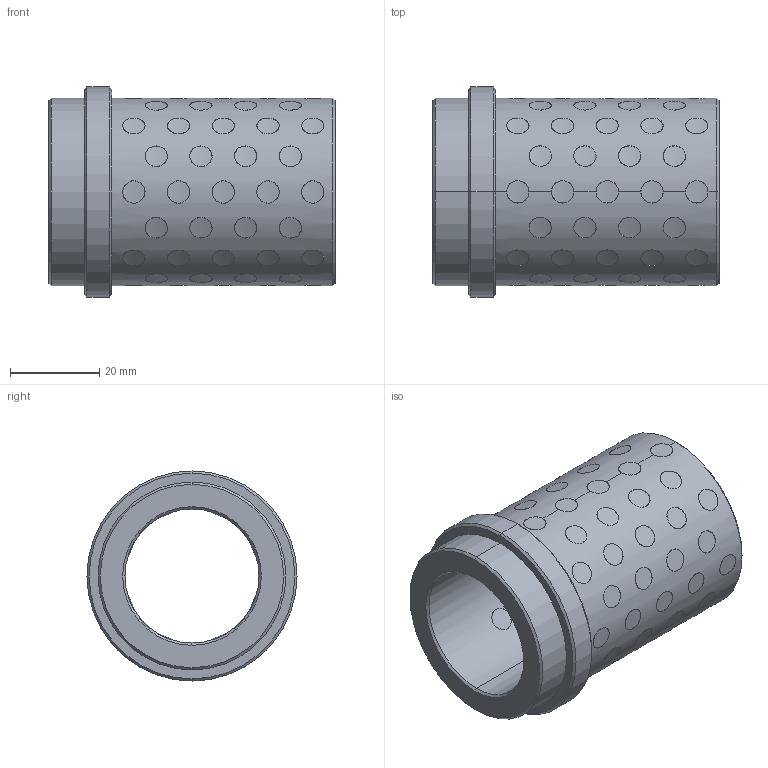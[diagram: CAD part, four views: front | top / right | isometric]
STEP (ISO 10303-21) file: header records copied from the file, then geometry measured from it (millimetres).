
FILE_DESCRIPTION((''),'2;1');
FILE_NAME('G31230056','2017-12-30T',('MANU'),(''),'PRO/ENGINEER BY PARAMETRIC TECHNOLOGY CORPORATION, 2012130','PRO/ENGINEER BY PARAMETRIC TECHNOLOGY CORPORATION, 2012130','');
FILE_SCHEMA(('CONFIG_CONTROL_DESIGN'));
Length unit declared in the file: millimetre
Products named in the file (1): G31230056
Bounding box: 64 x 47 x 47 mm (x, y, z)
Volume: 45263.5 mm3; surface area: 29921.6 mm2
Topology: 73 solids, 73 shells, 456 faces, 972 edges, 644 vertices
Faces by surface type: cylinder 440, cone 12, plane 4
Entity records: 21972 total; most frequent: CARTESIAN_POINT 13062, ORIENTED_EDGE 1944, DIRECTION 1296, EDGE_CURVE 972, VERTEX_POINT 644, B_SPLINE_CURVE_WITH_KNOTS 616, EDGE_LOOP 584, AXIS2_PLACEMENT_3D 484
